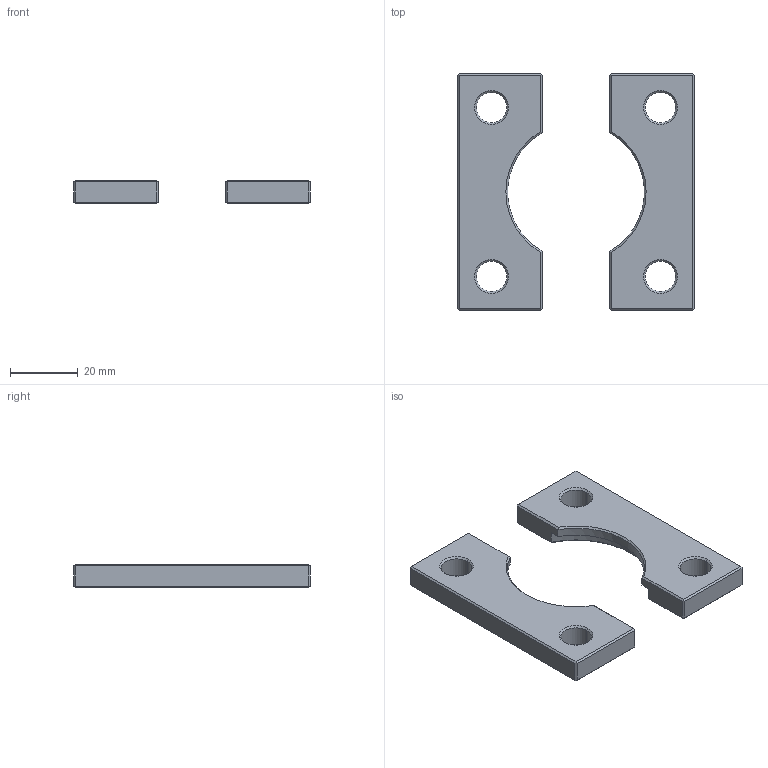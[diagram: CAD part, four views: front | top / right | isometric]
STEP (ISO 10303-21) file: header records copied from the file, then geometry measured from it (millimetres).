
FILE_DESCRIPTION(('CATIA V5 STEP Exchange'),'2;1');
FILE_NAME('W:\CATALOGO GENERAL 2018\FICHEROS CAD\023-BRIDAS\03-FP\FP 45.stp','2017-11-28T14:57:04+00:00',('none'),('none'),'CATIA Version 5 Release 17 (IN-10)','CATIA V5 STEP AP203','none');
FILE_SCHEMA(('CONFIG_CONTROL_DESIGN'));
Length unit declared in the file: millimetre
Products named in the file (1): FP 45
Bounding box: 70 x 70 x 7 mm (x, y, z)
Volume: 18062.3 mm3; surface area: 8728.2 mm2
Topology: 2 solids, 2 shells, 80 faces, 202 edges, 126 vertices
Faces by surface type: plane 44, cone 22, cylinder 14
Entity records: 2400 total; most frequent: CARTESIAN_POINT 559, ORIENTED_EDGE 404, DIRECTION 300, EDGE_CURVE 202, VERTEX_POINT 126, AXIS2_PLACEMENT_3D 125, VECTOR 96, LINE 96
